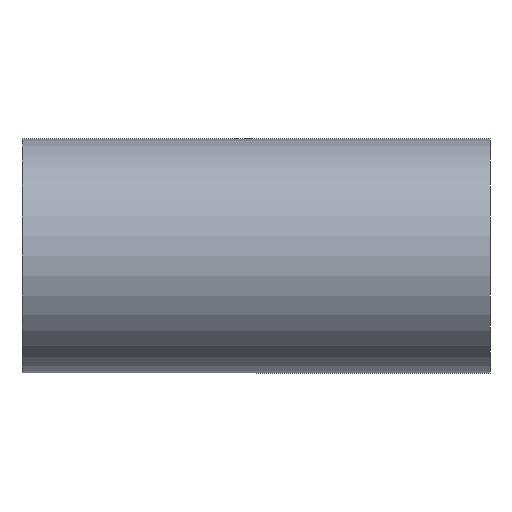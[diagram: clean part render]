
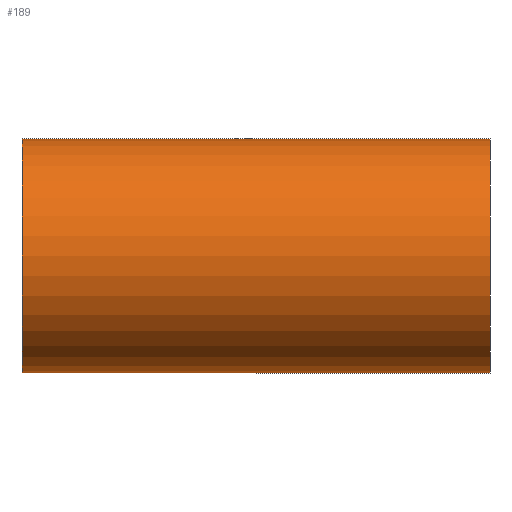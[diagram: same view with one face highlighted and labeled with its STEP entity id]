
A CAD part, front view. The second image highlights one B-rep face of the part: STEP entity #189.
In plain terms, the highlighted cylindrical face has radius 5 mm (diameter 10 mm), a partial arc.
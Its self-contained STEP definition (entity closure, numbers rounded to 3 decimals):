
#55 = CARTESIAN_POINT ( 'NONE',  ( 10., 0., 0. ) ) ;
#69 = ORIENTED_EDGE ( 'NONE', *, *, #404, .F. ) ;
#99 = DIRECTION ( 'NONE',  ( -1., 0., 0. ) ) ;
#113 = ORIENTED_EDGE ( 'NONE', *, *, #724, .T. ) ;
#114 = CARTESIAN_POINT ( 'NONE',  ( 10., 0., 5. ) ) ;
#118 = CARTESIAN_POINT ( 'NONE',  ( -10., 0., 5. ) ) ;
#123 = CYLINDRICAL_SURFACE ( 'NONE', #423, 5. ) ;
#152 = DIRECTION ( 'NONE',  ( -1., 0., 0. ) ) ;
#170 = DIRECTION ( 'NONE',  ( -1., 0., 0. ) ) ;
#189 = ADVANCED_FACE ( 'NONE', ( #379 ), #123, .T. ) ;
#220 = LINE ( 'NONE', #500, #542 ) ;
#229 = CARTESIAN_POINT ( 'NONE',  ( -10., 0., -5. ) ) ;
#290 = EDGE_LOOP ( 'NONE', ( #677, #349, #113, #69 ) ) ;
#292 = DIRECTION ( 'NONE',  ( -1., 0., 0. ) ) ;
#322 = AXIS2_PLACEMENT_3D ( 'NONE', #55, #815, #535 ) ;
#349 = ORIENTED_EDGE ( 'NONE', *, *, #534, .T. ) ;
#372 = CARTESIAN_POINT ( 'NONE',  ( -10., 0., 0. ) ) ;
#379 = FACE_OUTER_BOUND ( 'NONE', #290, .T. ) ;
#404 = EDGE_CURVE ( 'NONE', #412, #515, #762, .T. ) ;
#412 = VERTEX_POINT ( 'NONE', #229 ) ;
#420 = VERTEX_POINT ( 'NONE', #114 ) ;
#423 = AXIS2_PLACEMENT_3D ( 'NONE', #783, #170, #580 ) ;
#500 = CARTESIAN_POINT ( 'NONE',  ( 0., 0., 5. ) ) ;
#515 = VERTEX_POINT ( 'NONE', #118 ) ;
#534 = EDGE_CURVE ( 'NONE', #856, #420, #819, .T. ) ;
#535 = DIRECTION ( 'NONE',  ( 0., 0., 1. ) ) ;
#542 = VECTOR ( 'NONE', #152, 1000. ) ;
#572 = VECTOR ( 'NONE', #99, 1000. ) ;
#580 = DIRECTION ( 'NONE',  ( 0., 0., 1. ) ) ;
#626 = LINE ( 'NONE', #821, #572 ) ;
#677 = ORIENTED_EDGE ( 'NONE', *, *, #785, .F. ) ;
#699 = AXIS2_PLACEMENT_3D ( 'NONE', #372, #292, #766 ) ;
#724 = EDGE_CURVE ( 'NONE', #420, #515, #220, .T. ) ;
#762 = CIRCLE ( 'NONE', #699, 5. ) ;
#766 = DIRECTION ( 'NONE',  ( 0., 0., 1. ) ) ;
#783 = CARTESIAN_POINT ( 'NONE',  ( 0., 0., 0. ) ) ;
#785 = EDGE_CURVE ( 'NONE', #856, #412, #626, .T. ) ;
#789 = CARTESIAN_POINT ( 'NONE',  ( 10., 0., -5. ) ) ;
#815 = DIRECTION ( 'NONE',  ( -1., 0., 0. ) ) ;
#819 = CIRCLE ( 'NONE', #322, 5. ) ;
#821 = CARTESIAN_POINT ( 'NONE',  ( 0., 0., -5. ) ) ;
#856 = VERTEX_POINT ( 'NONE', #789 ) ;
